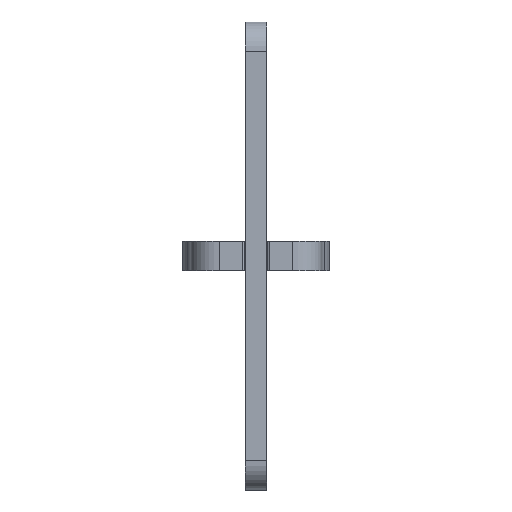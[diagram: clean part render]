
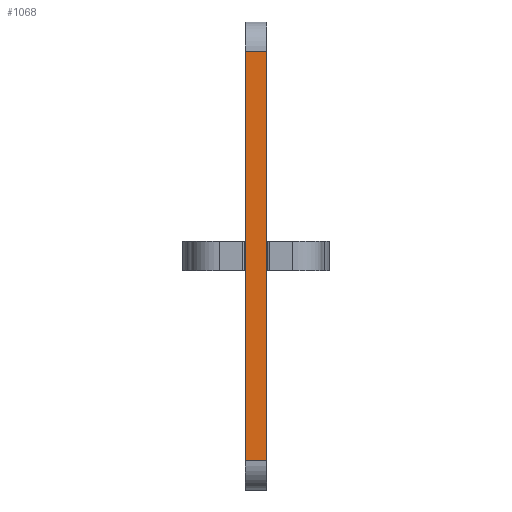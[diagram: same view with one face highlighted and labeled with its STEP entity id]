
A CAD part, front view. The second image highlights one B-rep face of the part: STEP entity #1068.
In plain terms, the highlighted planar face has unit normal (0, -1, 0).
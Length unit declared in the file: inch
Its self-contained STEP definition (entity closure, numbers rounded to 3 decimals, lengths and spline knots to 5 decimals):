
#103 = CARTESIAN_POINT ( 'NONE',  ( 6., -1.25, 0. ) ) ;
#145 = VERTEX_POINT ( 'NONE', #337 ) ;
#168 = EDGE_CURVE ( 'NONE', #659, #145, #547, .T. ) ;
#235 = CARTESIAN_POINT ( 'NONE',  ( -1., -1.25, 0.375 ) ) ;
#262 = DIRECTION ( 'NONE',  ( 0., 1., 0. ) ) ;
#285 = VECTOR ( 'NONE', #343, 39.37008 ) ;
#337 = CARTESIAN_POINT ( 'NONE',  ( 6., -1.25, 0.375 ) ) ;
#343 = DIRECTION ( 'NONE',  ( 0., 0., -1. ) ) ;
#394 = CARTESIAN_POINT ( 'NONE',  ( -1., -1.25, 0.375 ) ) ;
#541 = CARTESIAN_POINT ( 'NONE',  ( 6., -1.25, 0.375 ) ) ;
#547 = LINE ( 'NONE', #394, #912 ) ;
#586 = ORIENTED_EDGE ( 'NONE', *, *, #1445, .T. ) ;
#650 = ORIENTED_EDGE ( 'NONE', *, *, #2064, .T. ) ;
#659 = VERTEX_POINT ( 'NONE', #1389 ) ;
#783 = AXIS2_PLACEMENT_3D ( 'NONE', #1408, #262, #1245 ) ;
#805 = CARTESIAN_POINT ( 'NONE',  ( -1., -1.25, 0. ) ) ;
#822 = VECTOR ( 'NONE', #1011, 39.37008 ) ;
#889 = DIRECTION ( 'NONE',  ( 1., 0., 0. ) ) ;
#912 = VECTOR ( 'NONE', #889, 39.37008 ) ;
#1011 = DIRECTION ( 'NONE',  ( 1., 0., 0. ) ) ;
#1068 = ADVANCED_FACE ( 'NONE', ( #1232 ), #2078, .F. ) ;
#1142 = VERTEX_POINT ( 'NONE', #1239 ) ;
#1206 = LINE ( 'NONE', #235, #1603 ) ;
#1232 = FACE_OUTER_BOUND ( 'NONE', #2118, .T. ) ;
#1239 = CARTESIAN_POINT ( 'NONE',  ( -1., -1.25, 0. ) ) ;
#1245 = DIRECTION ( 'NONE',  ( 0., 0., 1. ) ) ;
#1336 = ORIENTED_EDGE ( 'NONE', *, *, #1490, .F. ) ;
#1389 = CARTESIAN_POINT ( 'NONE',  ( -1., -1.25, 0.375 ) ) ;
#1408 = CARTESIAN_POINT ( 'NONE',  ( -1., -1.25, 0.375 ) ) ;
#1418 = DIRECTION ( 'NONE',  ( 0., 0., -1. ) ) ;
#1436 = LINE ( 'NONE', #805, #822 ) ;
#1445 = EDGE_CURVE ( 'NONE', #1142, #2117, #1436, .T. ) ;
#1490 = EDGE_CURVE ( 'NONE', #145, #2117, #1839, .T. ) ;
#1574 = ORIENTED_EDGE ( 'NONE', *, *, #168, .F. ) ;
#1603 = VECTOR ( 'NONE', #1418, 39.37008 ) ;
#1839 = LINE ( 'NONE', #541, #285 ) ;
#2064 = EDGE_CURVE ( 'NONE', #659, #1142, #1206, .T. ) ;
#2078 = PLANE ( 'NONE',  #783 ) ;
#2117 = VERTEX_POINT ( 'NONE', #103 ) ;
#2118 = EDGE_LOOP ( 'NONE', ( #586, #1336, #1574, #650 ) ) ;
